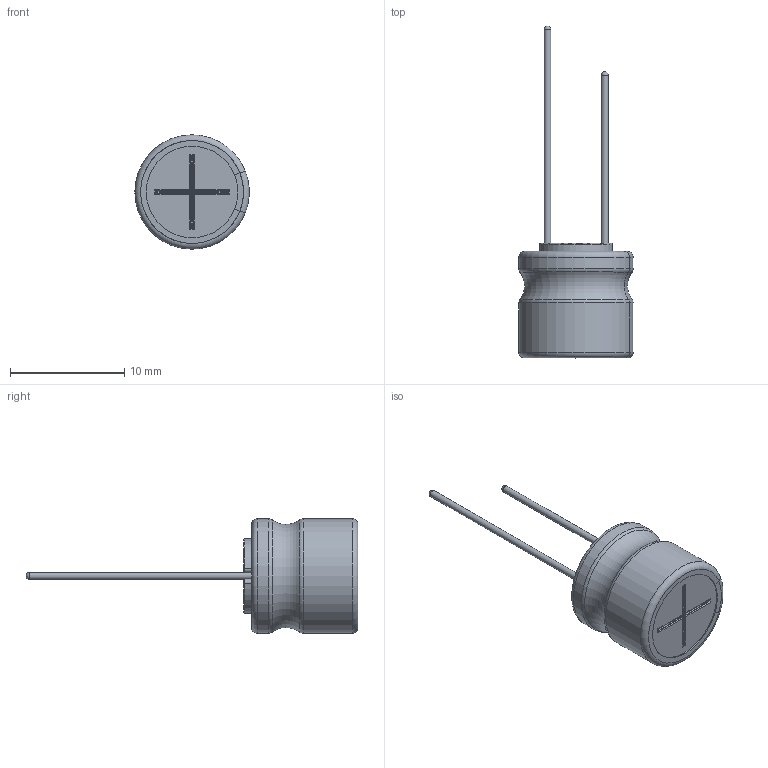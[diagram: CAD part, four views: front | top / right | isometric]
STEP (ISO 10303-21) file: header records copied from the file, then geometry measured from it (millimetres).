
FILE_DESCRIPTION(/* description */ (''),/* implementation_level */ '2;1');
FILE_NAME(/* name */ '10x10_Lead.stp',/* time_stamp */ '2017-09-05T14:03:14+09:00',/* author */ (''),/* organization */ (''),/* preprocessor_version */ 'ST-DEVELOPER v16',/* originating_system */ 'SIEMENS PLM Software NX 11.0',/* authorisation */ '');
FILE_SCHEMA (('AUTOMOTIVE_DESIGN { 1 0 10303 214 3 1 1 1 }'));
Length unit declared in the file: millimetre
Products named in the file (1): 10x10_Lead_0
Bounding box: 9.99 x 29 x 10 mm (x, y, z)
Volume: 724.4 mm3; surface area: 1173 mm2
Topology: 3 solids, 3 shells, 115 faces, 288 edges, 181 vertices
Faces by surface type: cylinder 44, torus 33, plane 28, sphere 6, bspline 4
Full cylindrical faces by diameter (mm): 0.6 x2, 9.8 x2
Entity records: 4020 total; most frequent: CARTESIAN_POINT 680, DIRECTION 664, ORIENTED_EDGE 544, AXIS2_PLACEMENT_3D 280, EDGE_CURVE 272, VERTEX_POINT 176, CIRCLE 160, EDGE_LOOP 128
